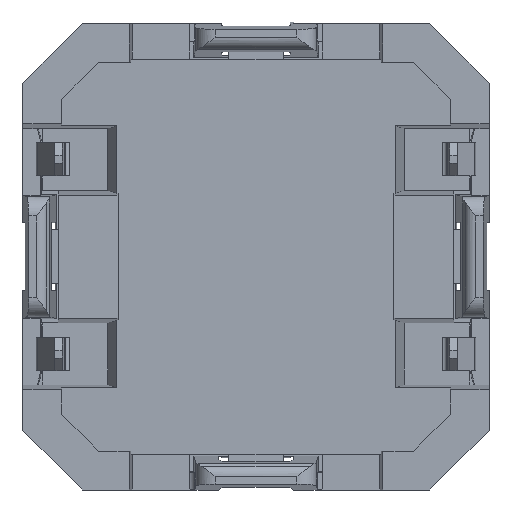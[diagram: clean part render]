
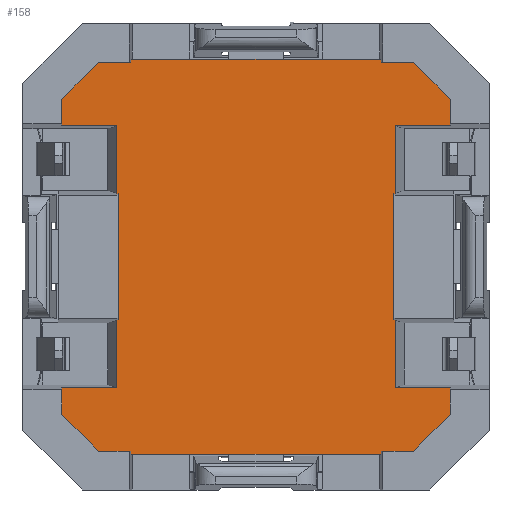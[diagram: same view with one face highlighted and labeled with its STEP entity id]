
A CAD part, front view. The second image highlights one B-rep face of the part: STEP entity #158.
In plain terms, the highlighted planar face has unit normal (0, -1, 0).
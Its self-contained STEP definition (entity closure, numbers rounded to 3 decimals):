
#158=ADVANCED_FACE('',(#719),#720,.F.);
#719=FACE_OUTER_BOUND('',#1622,.T.);
#720=PLANE('',#1623);
#1622=EDGE_LOOP('',(#3325,#3326,#3327,#3328,#3329,#3330,#3331,#3332,#3333,#3334,#3335,#3336,#3337,#3338,#3339,#3340,#3341,#3342,#3343,#3344,#3345,#3346,#3347,#3348,#3349,#3350,#3351,#3352,#3353,#3354,#3355,#3356));
#1623=AXIS2_PLACEMENT_3D('',#3357,#3358,#3359);
#3325=ORIENTED_EDGE('',*,*,#6551,.F.);
#3326=ORIENTED_EDGE('',*,*,#6639,.F.);
#3327=ORIENTED_EDGE('',*,*,#6544,.F.);
#3328=ORIENTED_EDGE('',*,*,#6541,.F.);
#3329=ORIENTED_EDGE('',*,*,#6539,.T.);
#3330=ORIENTED_EDGE('',*,*,#6640,.F.);
#3331=ORIENTED_EDGE('',*,*,#6641,.F.);
#3332=ORIENTED_EDGE('',*,*,#6642,.F.);
#3333=ORIENTED_EDGE('',*,*,#6643,.T.);
#3334=ORIENTED_EDGE('',*,*,#6644,.F.);
#3335=ORIENTED_EDGE('',*,*,#6645,.F.);
#3336=ORIENTED_EDGE('',*,*,#6646,.F.);
#3337=ORIENTED_EDGE('',*,*,#6647,.F.);
#3338=ORIENTED_EDGE('',*,*,#6648,.F.);
#3339=ORIENTED_EDGE('',*,*,#6649,.T.);
#3340=ORIENTED_EDGE('',*,*,#6650,.T.);
#3341=ORIENTED_EDGE('',*,*,#6651,.F.);
#3342=ORIENTED_EDGE('',*,*,#6652,.F.);
#3343=ORIENTED_EDGE('',*,*,#6653,.F.);
#3344=ORIENTED_EDGE('',*,*,#6654,.T.);
#3345=ORIENTED_EDGE('',*,*,#6322,.F.);
#3346=ORIENTED_EDGE('',*,*,#6638,.F.);
#3347=ORIENTED_EDGE('',*,*,#6655,.F.);
#3348=ORIENTED_EDGE('',*,*,#6656,.F.);
#3349=ORIENTED_EDGE('',*,*,#6657,.T.);
#3350=ORIENTED_EDGE('',*,*,#6658,.F.);
#3351=ORIENTED_EDGE('',*,*,#6659,.F.);
#3352=ORIENTED_EDGE('',*,*,#6660,.F.);
#3353=ORIENTED_EDGE('',*,*,#6661,.F.);
#3354=ORIENTED_EDGE('',*,*,#6662,.F.);
#3355=ORIENTED_EDGE('',*,*,#6663,.F.);
#3356=ORIENTED_EDGE('',*,*,#6664,.F.);
#3357=CARTESIAN_POINT('',(-3.58,-0.86,1.603));
#3358=DIRECTION('',(-0.0,1.0,0.0));
#3359=DIRECTION('',(1.0,0.0,0.0));
#6322=EDGE_CURVE('',#7725,#7727,#7728,.T.);
#6539=EDGE_CURVE('',#8095,#8093,#8096,.T.);
#6541=EDGE_CURVE('',#8095,#8098,#8099,.T.);
#6544=EDGE_CURVE('',#8098,#8103,#8104,.T.);
#6551=EDGE_CURVE('',#8113,#8115,#8116,.T.);
#6638=EDGE_CURVE('',#8259,#7725,#8261,.T.);
#6639=EDGE_CURVE('',#8103,#8113,#8262,.T.);
#6640=EDGE_CURVE('',#8263,#8093,#8264,.T.);
#6641=EDGE_CURVE('',#8265,#8263,#8266,.T.);
#6642=EDGE_CURVE('',#8267,#8265,#8268,.T.);
#6643=EDGE_CURVE('',#8267,#8269,#8270,.T.);
#6644=EDGE_CURVE('',#8271,#8269,#8272,.T.);
#6645=EDGE_CURVE('',#8273,#8271,#8274,.T.);
#6646=EDGE_CURVE('',#8275,#8273,#8276,.T.);
#6647=EDGE_CURVE('',#8277,#8275,#8278,.T.);
#6648=EDGE_CURVE('',#8279,#8277,#8280,.T.);
#6649=EDGE_CURVE('',#8279,#8281,#8282,.T.);
#6650=EDGE_CURVE('',#8281,#8283,#8284,.T.);
#6651=EDGE_CURVE('',#8285,#8283,#8286,.T.);
#6652=EDGE_CURVE('',#8287,#8285,#8288,.T.);
#6653=EDGE_CURVE('',#8289,#8287,#8290,.T.);
#6654=EDGE_CURVE('',#8289,#7727,#8291,.T.);
#6655=EDGE_CURVE('',#8292,#8259,#8293,.T.);
#6656=EDGE_CURVE('',#8294,#8292,#8295,.T.);
#6657=EDGE_CURVE('',#8294,#8296,#8297,.T.);
#6658=EDGE_CURVE('',#8298,#8296,#8299,.T.);
#6659=EDGE_CURVE('',#8300,#8298,#8301,.T.);
#6660=EDGE_CURVE('',#8302,#8300,#8303,.T.);
#6661=EDGE_CURVE('',#8304,#8302,#8305,.T.);
#6662=EDGE_CURVE('',#8306,#8304,#8307,.T.);
#6663=EDGE_CURVE('',#8308,#8306,#8309,.T.);
#6664=EDGE_CURVE('',#8115,#8308,#8310,.T.);
#7725=VERTEX_POINT('',#9952);
#7727=VERTEX_POINT('',#9955);
#7728=LINE('',#9956,#9957);
#8093=VERTEX_POINT('',#10501);
#8095=VERTEX_POINT('',#10504);
#8096=LINE('',#10505,#10506);
#8098=VERTEX_POINT('',#10509);
#8099=LINE('',#10510,#10511);
#8103=VERTEX_POINT('',#10517);
#8104=LINE('',#10518,#10519);
#8113=VERTEX_POINT('',#10533);
#8115=VERTEX_POINT('',#10536);
#8116=LINE('',#10537,#10538);
#8259=VERTEX_POINT('',#10761);
#8261=LINE('',#10764,#10765);
#8262=LINE('',#10766,#10767);
#8263=VERTEX_POINT('',#10768);
#8264=LINE('',#10769,#10770);
#8265=VERTEX_POINT('',#10771);
#8266=LINE('',#10772,#10773);
#8267=VERTEX_POINT('',#10774);
#8268=LINE('',#10775,#10776);
#8269=VERTEX_POINT('',#10777);
#8270=LINE('',#10778,#10779);
#8271=VERTEX_POINT('',#10780);
#8272=LINE('',#10781,#10782);
#8273=VERTEX_POINT('',#10783);
#8274=LINE('',#10784,#10785);
#8275=VERTEX_POINT('',#10786);
#8276=LINE('',#10787,#10788);
#8277=VERTEX_POINT('',#10789);
#8278=LINE('',#10790,#10791);
#8279=VERTEX_POINT('',#10792);
#8280=LINE('',#10793,#10794);
#8281=VERTEX_POINT('',#10795);
#8282=LINE('',#10796,#10797);
#8283=VERTEX_POINT('',#10798);
#8284=LINE('',#10799,#10800);
#8285=VERTEX_POINT('',#10801);
#8286=LINE('',#10802,#10803);
#8287=VERTEX_POINT('',#10804);
#8288=LINE('',#10805,#10806);
#8289=VERTEX_POINT('',#10807);
#8290=LINE('',#10808,#10809);
#8291=LINE('',#10810,#10811);
#8292=VERTEX_POINT('',#10812);
#8293=LINE('',#10813,#10814);
#8294=VERTEX_POINT('',#10815);
#8295=LINE('',#10816,#10817);
#8296=VERTEX_POINT('',#10818);
#8297=LINE('',#10819,#10820);
#8298=VERTEX_POINT('',#10821);
#8299=LINE('',#10822,#10823);
#8300=VERTEX_POINT('',#10824);
#8301=LINE('',#10825,#10826);
#8302=VERTEX_POINT('',#10827);
#8303=LINE('',#10828,#10829);
#8304=VERTEX_POINT('',#10830);
#8305=LINE('',#10831,#10832);
#8306=VERTEX_POINT('',#10833);
#8307=LINE('',#10834,#10835);
#8308=VERTEX_POINT('',#10836);
#8309=LINE('',#10837,#10838);
#8310=LINE('',#10839,#10840);
#9952=CARTESIAN_POINT('',(5.0,-0.86,3.375));
#9955=CARTESIAN_POINT('',(3.58,-0.86,3.375));
#9956=CARTESIAN_POINT('',(5.0,-0.86,3.375));
#9957=VECTOR('',#13274,1.42);
#10501=CARTESIAN_POINT('',(-5.0,-0.86,-3.375));
#10504=CARTESIAN_POINT('',(-3.58,-0.86,-3.375));
#10505=CARTESIAN_POINT('',(-3.58,-0.86,-3.375));
#10506=VECTOR('',#13584,1.42);
#10509=CARTESIAN_POINT('',(-3.58,-0.86,-1.625));
#10510=CARTESIAN_POINT('',(-3.58,-0.86,-3.375));
#10511=VECTOR('',#13586,1.75);
#10517=CARTESIAN_POINT('',(-3.55,-0.86,-1.625));
#10518=CARTESIAN_POINT('',(-3.58,-0.86,-1.625));
#10519=VECTOR('',#13589,0.03);
#10533=CARTESIAN_POINT('',(-3.55,-0.86,1.625));
#10536=CARTESIAN_POINT('',(-3.58,-0.86,1.625));
#10537=CARTESIAN_POINT('',(-3.55,-0.86,1.625));
#10538=VECTOR('',#13596,0.03);
#10761=CARTESIAN_POINT('',(5.0,-0.86,4.051));
#10764=CARTESIAN_POINT('',(5.0,-0.86,4.051));
#10765=VECTOR('',#13707,0.676);
#10766=CARTESIAN_POINT('',(-3.55,-0.86,-1.625));
#10767=VECTOR('',#13708,3.25);
#10768=CARTESIAN_POINT('',(-5.0,-0.86,-4.051));
#10769=CARTESIAN_POINT('',(-5.0,-0.86,-4.051));
#10770=VECTOR('',#13709,0.676);
#10771=CARTESIAN_POINT('',(-4.051,-0.86,-5.0));
#10772=CARTESIAN_POINT('',(-4.051,-0.86,-5.0));
#10773=VECTOR('',#13710,1.342);
#10774=CARTESIAN_POINT('',(-3.223,-0.86,-5.0));
#10775=CARTESIAN_POINT('',(-3.223,-0.86,-5.0));
#10776=VECTOR('',#13711,0.828);
#10777=CARTESIAN_POINT('',(-3.223,-0.86,-5.085));
#10778=CARTESIAN_POINT('',(-3.223,-0.86,-5.0));
#10779=VECTOR('',#13712,0.085);
#10780=CARTESIAN_POINT('',(3.223,-0.86,-5.085));
#10781=CARTESIAN_POINT('',(3.223,-0.86,-5.085));
#10782=VECTOR('',#13713,6.445);
#10783=CARTESIAN_POINT('',(3.223,-0.86,-5.0));
#10784=CARTESIAN_POINT('',(3.223,-0.86,-5.0));
#10785=VECTOR('',#13714,0.085);
#10786=CARTESIAN_POINT('',(4.051,-0.86,-5.0));
#10787=CARTESIAN_POINT('',(4.051,-0.86,-5.0));
#10788=VECTOR('',#13715,0.828);
#10789=CARTESIAN_POINT('',(5.0,-0.86,-4.051));
#10790=CARTESIAN_POINT('',(5.0,-0.86,-4.051));
#10791=VECTOR('',#13716,1.342);
#10792=CARTESIAN_POINT('',(5.0,-0.86,-3.375));
#10793=CARTESIAN_POINT('',(5.0,-0.86,-3.375));
#10794=VECTOR('',#13717,0.676);
#10795=CARTESIAN_POINT('',(3.58,-0.86,-3.375));
#10796=CARTESIAN_POINT('',(5.0,-0.86,-3.375));
#10797=VECTOR('',#13718,1.42);
#10798=CARTESIAN_POINT('',(3.58,-0.86,-1.625));
#10799=CARTESIAN_POINT('',(3.58,-0.86,-3.375));
#10800=VECTOR('',#13719,1.75);
#10801=CARTESIAN_POINT('',(3.55,-0.86,-1.625));
#10802=CARTESIAN_POINT('',(3.55,-0.86,-1.625));
#10803=VECTOR('',#13720,0.03);
#10804=CARTESIAN_POINT('',(3.55,-0.86,1.625));
#10805=CARTESIAN_POINT('',(3.55,-0.86,1.625));
#10806=VECTOR('',#13721,3.25);
#10807=CARTESIAN_POINT('',(3.58,-0.86,1.625));
#10808=CARTESIAN_POINT('',(3.58,-0.86,1.625));
#10809=VECTOR('',#13722,0.03);
#10810=CARTESIAN_POINT('',(3.58,-0.86,1.625));
#10811=VECTOR('',#13723,1.75);
#10812=CARTESIAN_POINT('',(4.051,-0.86,5.0));
#10813=CARTESIAN_POINT('',(4.051,-0.86,5.0));
#10814=VECTOR('',#13724,1.342);
#10815=CARTESIAN_POINT('',(3.223,-0.86,5.0));
#10816=CARTESIAN_POINT('',(3.223,-0.86,5.0));
#10817=VECTOR('',#13725,0.828);
#10818=CARTESIAN_POINT('',(3.223,-0.86,5.085));
#10819=CARTESIAN_POINT('',(3.223,-0.86,5.0));
#10820=VECTOR('',#13726,0.085);
#10821=CARTESIAN_POINT('',(-3.223,-0.86,5.085));
#10822=CARTESIAN_POINT('',(-3.223,-0.86,5.085));
#10823=VECTOR('',#13727,6.445);
#10824=CARTESIAN_POINT('',(-3.223,-0.86,5.0));
#10825=CARTESIAN_POINT('',(-3.223,-0.86,5.0));
#10826=VECTOR('',#13728,0.085);
#10827=CARTESIAN_POINT('',(-4.051,-0.86,5.0));
#10828=CARTESIAN_POINT('',(-4.051,-0.86,5.0));
#10829=VECTOR('',#13729,0.828);
#10830=CARTESIAN_POINT('',(-5.0,-0.86,4.051));
#10831=CARTESIAN_POINT('',(-5.0,-0.86,4.051));
#10832=VECTOR('',#13730,1.342);
#10833=CARTESIAN_POINT('',(-5.0,-0.86,3.375));
#10834=CARTESIAN_POINT('',(-5.0,-0.86,3.375));
#10835=VECTOR('',#13731,0.676);
#10836=CARTESIAN_POINT('',(-3.58,-0.86,3.375));
#10837=CARTESIAN_POINT('',(-3.58,-0.86,3.375));
#10838=VECTOR('',#13732,1.42);
#10839=CARTESIAN_POINT('',(-3.58,-0.86,1.625));
#10840=VECTOR('',#13733,1.75);
#13274=DIRECTION('',(-1.0,0.,0.0));
#13584=DIRECTION('',(-1.0,0.,0.));
#13586=DIRECTION('',(0.0,0.0,1.0));
#13589=DIRECTION('',(1.0,0.,0.));
#13596=DIRECTION('',(-1.0,0.,0.));
#13707=DIRECTION('',(0.0,0.,-1.0));
#13708=DIRECTION('',(0.0,0.0,1.0));
#13709=DIRECTION('',(0.0,0.0,1.0));
#13710=DIRECTION('',(-0.707,0.0,0.707));
#13711=DIRECTION('',(-1.0,0.0,0.0));
#13712=DIRECTION('',(0.,0.0,-1.0));
#13713=DIRECTION('',(-1.0,0.0,0.0));
#13714=DIRECTION('',(0.,0.0,-1.0));
#13715=DIRECTION('',(-1.0,0.0,0.0));
#13716=DIRECTION('',(-0.707,0.0,-0.707));
#13717=DIRECTION('',(0.0,0.0,-1.0));
#13718=DIRECTION('',(-1.0,0.,0.0));
#13719=DIRECTION('',(0.0,0.0,1.0));
#13720=DIRECTION('',(1.0,0.,0.));
#13721=DIRECTION('',(0.0,0.0,-1.0));
#13722=DIRECTION('',(-1.0,0.,0.));
#13723=DIRECTION('',(0.0,0.0,1.0));
#13724=DIRECTION('',(0.707,0.0,-0.707));
#13725=DIRECTION('',(1.0,0.0,0.0));
#13726=DIRECTION('',(0.,0.0,1.0));
#13727=DIRECTION('',(1.0,0.0,0.0));
#13728=DIRECTION('',(0.,0.0,1.0));
#13729=DIRECTION('',(1.0,0.0,0.0));
#13730=DIRECTION('',(0.707,0.0,0.707));
#13731=DIRECTION('',(0.0,0.,1.0));
#13732=DIRECTION('',(-1.0,0.,0.));
#13733=DIRECTION('',(0.0,0.0,1.0));
